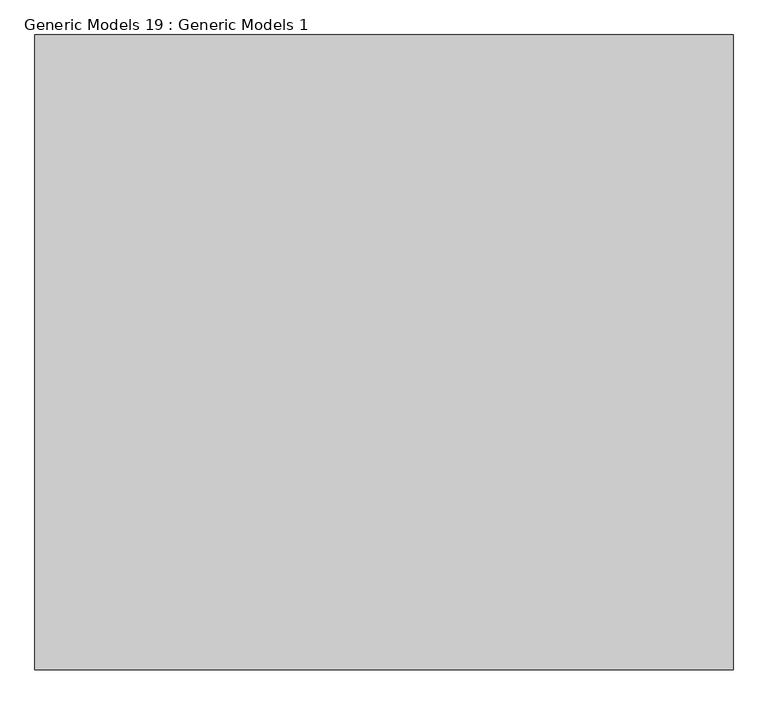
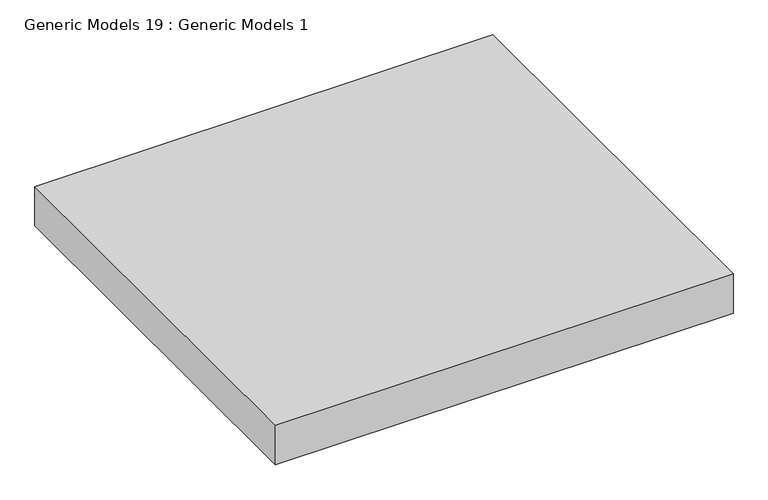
"""IFC4 building model written with IfcOpenShell, lengths in millimetres: proxy geometry, Generic Models 19 : Generic Models 1."""

from ifc_helpers import new_model, si_unit, origin, origin_with_axes, place, context, project, spatial, polyline, outline, extrude, source, transform, mapped, element, save


def generic_models_19_generic_models_1_ea46eb77(model_context):
    return source(origin(), model_context, "Body", "SweptSolid", [
        extrude(outline(polyline([(9837.1851171, -7486.5772826), (9837.1851171, -6486.5772826), (10937.1851171, -6486.5772826), (10937.1851171, -7486.5772826), (9837.1851171, -7486.5772826)])), origin_with_axes(), (0.0, 0.0, 1.0), 100.0),
    ])


if __name__ == "__main__":
    model = new_model("IFC4")
    model_context = context("Model", 3, world=origin())
    ifc_project = project(units=[si_unit("LENGTHUNIT", "METRE", prefix="MILLI")], contexts=[model_context])
    site = spatial("IfcSite", under=ifc_project)
    building = spatial("IfcBuilding", under=site)
    placement = place(None, origin())
    generic_models_19_generic_models_1_shape = generic_models_19_generic_models_1_ea46eb77(model_context)
    element("IfcBuildingElementProxy", 1, Name="Generic Models 19 : Generic Models 1", ObjectType="Generic Models 19 : Generic Models 1", at=placement, inside=building, context=model_context, shape_type="MappedRepresentation", body=[
        mapped(generic_models_19_generic_models_1_shape, transform((0.0, 0.0, 0.0), x_axis=(1.0, 0.0, 0.0), y_axis=(0.0, 1.0, 0.0), z_axis=(0.0, 0.0, 1.0))),
    ])
    save(model, "model.ifc")
